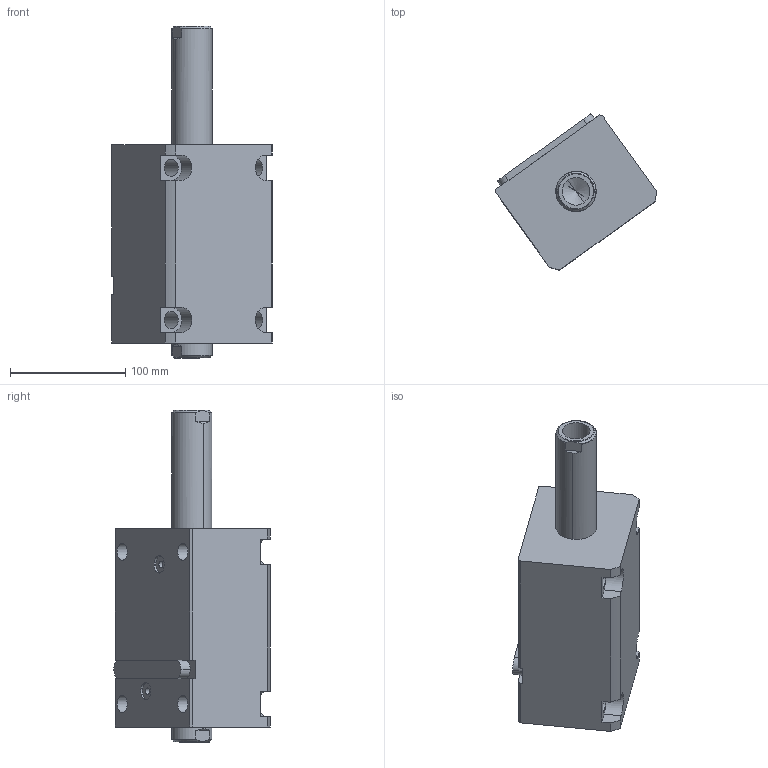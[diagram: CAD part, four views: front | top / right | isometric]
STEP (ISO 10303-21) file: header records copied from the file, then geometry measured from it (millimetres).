
FILE_DESCRIPTION (( 'STEP AP214' ), '1' );
FILE_NAME ('chtb-lwm63x90n_asm.STEP', '2018-05-22T02:21:58', ( 'Windows' ), ( 'Microsoft' ), 'SwSTEP 2.0', 'SolidWorks 2015', '' );
FILE_SCHEMA (( 'AUTOMOTIVE_DESIGN' ));
Length unit declared in the file: millimetre
Products named in the file (5): chtb-lwm63x90n_asm; CHTB-SW63X90NHSG; CHTB-LWM63X90NBT; CHTB-LA63PJ; CHTB-63QG
Assembly tree (4 placements, depth 2):
  chtb-lwm63x90n_asm
    CHTB-63QG
    CHTB-LA63PJ
    CHTB-LWM63X90NBT
    CHTB-SW63X90NHSG
Bounding box: 138.99 x 135.78 x 288 mm (x, y, z)
Volume: 1563700.4 mm3; surface area: 203198.3 mm2
Topology: 4 solids, 4 shells, 186 faces, 543 edges, 367 vertices
Faces by surface type: cylinder 103, plane 47, bspline 12, cone 12, torus 12
Entity records: 18665 total; most frequent: CARTESIAN_POINT 13839, ORIENTED_EDGE 1070, DIRECTION 834, EDGE_CURVE 535, VERTEX_POINT 367, AXIS2_PLACEMENT_3D 318, EDGE_LOOP 212, VECTOR 198
